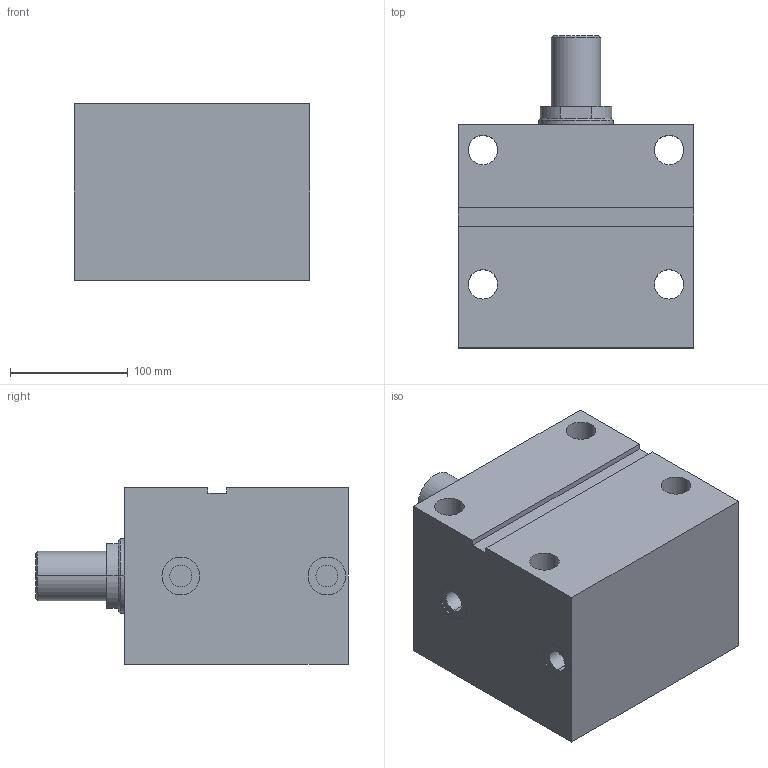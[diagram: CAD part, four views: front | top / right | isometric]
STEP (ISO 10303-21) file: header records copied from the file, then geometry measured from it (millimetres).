
FILE_DESCRIPTION (( 'STEP AP203' ), '1' );
FILE_NAME ('GERMA_Blockzylinder_601-100-100-A.STEP', '2015-10-09T13:50:16', ( '' ), ( '' ), 'SwSTEP 2.0', 'SolidWorks 2015', '' );
FILE_SCHEMA (( 'CONFIG_CONTROL_DESIGN' ));
Length unit declared in the file: millimetre
Products named in the file (3): GH-600-100_GH-601-100-100; Kolben 60x-100_Kolben DU.100-Hub100-AG; GERMA_Blockzylinder_601-100-100-A
Assembly tree (2 placements, depth 2):
  GERMA_Blockzylinder_601-100-100-A
    GH-600-100_GH-601-100-100
    Kolben 60x-100_Kolben DU.100-Hub100-AG
Bounding box: 200 x 265 x 150 mm (x, y, z)
Volume: 5030896.5 mm3; surface area: 361654.9 mm2
Topology: 2 solids, 2 shells, 73 faces, 162 edges, 101 vertices
Faces by surface type: cylinder 35, plane 26, cone 12
Entity records: 2330 total; most frequent: DIRECTION 395, CARTESIAN_POINT 337, ORIENTED_EDGE 316, AXIS2_PLACEMENT_3D 159, EDGE_CURVE 158, VERTEX_POINT 101, EDGE_LOOP 93, CIRCLE 81
